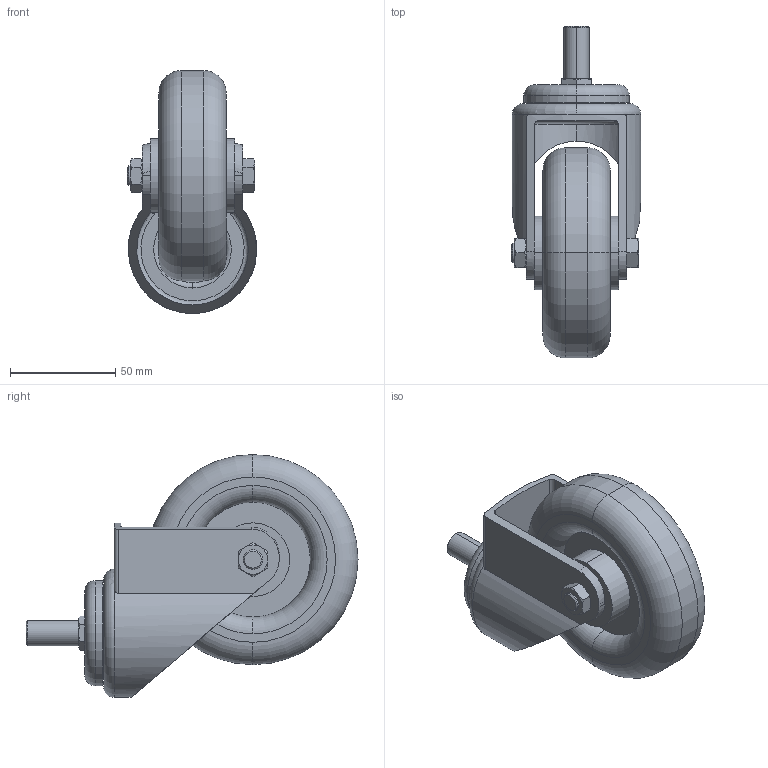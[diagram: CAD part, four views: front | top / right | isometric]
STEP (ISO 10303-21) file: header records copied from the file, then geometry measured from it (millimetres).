
FILE_DESCRIPTION (( 'STEP AP214' ), '1' );
FILE_NAME ('Z11-03-100-112B.step', '2019-06-12T09:32:01', ( 'IT Division' ), ( 'IT' ), 'SwSTEP 2.0', 'SolidWorks 2016', '' );
FILE_SCHEMA (( 'AUTOMOTIVE_DESIGN' ));
Length unit declared in the file: millimetre
Products named in the file (1): Z11-03-100-112B
Bounding box: 61.51 x 158 x 115.58 mm (x, y, z)
Volume: 296376.4 mm3; surface area: 55088.8 mm2
Topology: 1 solids, 1 shells, 138 faces, 311 edges, 189 vertices
Faces by surface type: plane 52, cylinder 33, cone 30, torus 23
Entity records: 5639 total; most frequent: CARTESIAN_POINT 1109, DIRECTION 674, ORIENTED_EDGE 622, EDGE_CURVE 311, AXIS2_PLACEMENT_3D 288, VERTEX_POINT 189, EDGE_LOOP 154, CIRCLE 149
